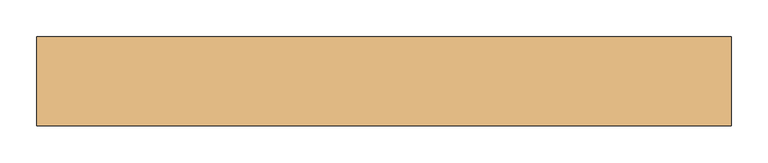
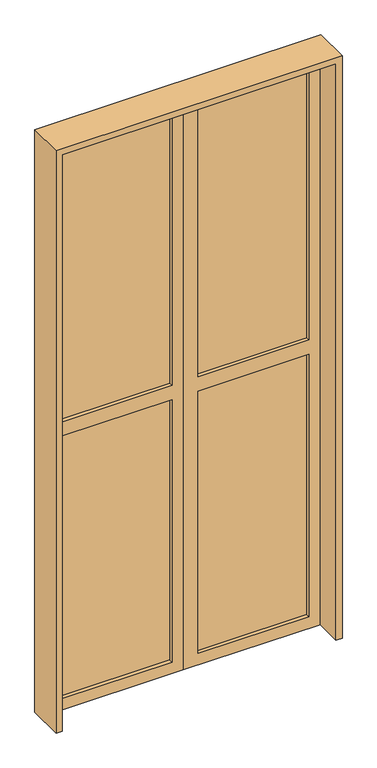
"""IFC4 building model written with IfcOpenShell, lengths in millimetres: door geometry, 木製_折戸2枚_フラッシュ(UB) : WD-5 w900h2000."""

from ifc_helpers import new_model, si_unit, frame, origin, place, context, project, spatial, polyline, outline, extrude, source, transform, mapped, element, save


def door_ecad7493(model_context):
    return source(origin(), model_context, "Body", "SweptSolid", [
        extrude(outline(polyline([(2000.0, 0.0), (2000.0, -450.0), (0.0, -450.0), (0.0, 0.0), (2000.0, 0.0)]), holes=[polyline([(1943.7512282, -400.6069154), (1943.7512282, -37.4435153), (1000.0, -37.4435153), (1000.0, -400.6069154), (1943.7512282, -400.6069154)]), polyline([(950.0, -400.6069154), (950.0, -37.4435153), (40.5708709, -37.4435153), (40.5708709, -400.6069154), (950.0, -400.6069154)])]), frame((0.0, 30.0, 0.0), z_axis=(0.0, 1.0, 0.0), x_axis=(0.0, 0.0, 1.0)), (0.0, 0.0, 1.0), 30.0),
        extrude(outline(polyline([(2020.0, -470.0), (0.0, -470.0), (0.0, -450.0), (2000.0, -450.0), (2000.0, 450.0), (0.0, 450.0), (0.0, 470.0), (2020.0, 470.0), (2020.0, -470.0)])), frame((0.0, -60.0, 0.0), z_axis=(0.0, 1.0, 0.0), x_axis=(0.0, 0.0, 1.0)), (0.0, 0.0, 1.0), 120.0),
        extrude(outline(polyline([(2000.0, 450.0), (2000.0, 0.0), (0.0, 0.0), (0.0, 450.0), (2000.0, 450.0)]), holes=[polyline([(1943.7512282, 49.3930846), (1943.7512282, 412.5564847), (1000.0, 412.5564847), (1000.0, 49.3930846), (1943.7512282, 49.3930846)]), polyline([(950.0, 49.3930846), (950.0, 412.5564847), (40.5708709, 412.5564847), (40.5708709, 49.3930846), (950.0, 49.3930846)])]), frame((0.0, 30.0, 0.0), z_axis=(0.0, 1.0, 0.0), x_axis=(0.0, 0.0, 1.0)), (0.0, 0.0, 1.0), 30.0),
        extrude(outline(polyline([(49.3930846, 45.0), (412.5564847, 45.0), (412.5564847, 42.0), (49.3930846, 42.0), (49.3930846, 45.0)])), frame((0.0, 0.0, 1000.0), z_axis=(0.0, 0.0, 1.0), x_axis=(1.0, 0.0, 0.0)), (0.0, 0.0, 1.0), 943.7512282),
        extrude(outline(polyline([(49.3930846, 45.0), (412.5564847, 45.0), (412.5564847, 42.0), (49.3930846, 42.0), (49.3930846, 45.0)])), frame((0.0, 0.0, 40.5708709), z_axis=(0.0, 0.0, 1.0), x_axis=(1.0, 0.0, 0.0)), (0.0, 0.0, 1.0), 909.4291291),
        extrude(outline(polyline([(-400.6069154, 45.0), (-37.4435153, 45.0), (-37.4435153, 42.0), (-400.6069154, 42.0), (-400.6069154, 45.0)])), frame((0.0, 0.0, 1000.0), z_axis=(0.0, 0.0, 1.0), x_axis=(1.0, 0.0, 0.0)), (0.0, 0.0, 1.0), 943.7512282),
        extrude(outline(polyline([(-400.6069154, 45.0), (-37.4435153, 45.0), (-37.4435153, 42.0), (-400.6069154, 42.0), (-400.6069154, 45.0)])), frame((0.0, 0.0, 40.5708709), z_axis=(0.0, 0.0, 1.0), x_axis=(1.0, 0.0, 0.0)), (0.0, 0.0, 1.0), 909.4291291),
    ])


if __name__ == "__main__":
    model = new_model("IFC4")
    model_context = context("Model", 3, world=origin())
    ifc_project = project(units=[si_unit("LENGTHUNIT", "METRE", prefix="MILLI")], contexts=[model_context])
    site = spatial("IfcSite", under=ifc_project)
    building = spatial("IfcBuilding", under=site)
    placement = place(None, origin())
    door_shape = door_ecad7493(model_context)
    element("IfcDoor", 1, ObjectType="木製_折戸2枚_フラッシュ(UB) : WD-5 w900h2000", at=placement, inside=building, context=model_context, shape_type="MappedRepresentation", body=[
        mapped(door_shape, transform((0.0, 0.0, 0.0), x_axis=(1.0, 0.0, 0.0), y_axis=(0.0, 1.0, 0.0), z_axis=(0.0, 0.0, 1.0))),
    ])
    save(model, "model.ifc")
